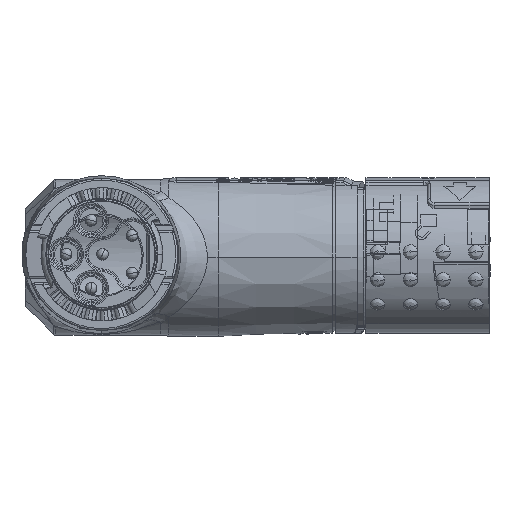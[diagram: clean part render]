
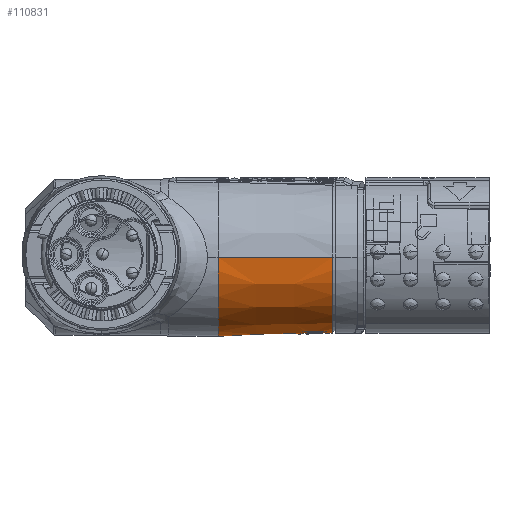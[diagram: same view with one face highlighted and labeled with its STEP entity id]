
A CAD part, top view. The second image highlights one B-rep face of the part: STEP entity #110831.
In plain terms, the highlighted conical face has half-angle 1.457 degrees and reference radius 10.86 mm.
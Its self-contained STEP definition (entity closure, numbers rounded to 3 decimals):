
#3 = CARTESIAN_POINT ( 'NONE',  ( 29.312, -10.33, -22.439 ) ) ;
#1002 = CARTESIAN_POINT ( 'NONE',  ( 16., 0., -13.579 ) ) ;
#1900 = VECTOR ( 'NONE', #90024, 1000. ) ;
#2316 = CIRCLE ( 'NONE', #64926, 10.86 ) ;
#2402 = CARTESIAN_POINT ( 'NONE',  ( 16., 0., -35.299 ) ) ;
#4346 = CARTESIAN_POINT ( 'NONE',  ( 30.501, -10.383, -25.948 ) ) ;
#5583 = DIRECTION ( 'NONE',  ( -1., 0., 0. ) ) ;
#5761 = CARTESIAN_POINT ( 'NONE',  ( 16., 0., -24.439 ) ) ;
#6026 = CARTESIAN_POINT ( 'NONE',  ( 28.917, -10.34, -26.439 ) ) ;
#6600 = CARTESIAN_POINT ( 'NONE',  ( 28.654, -10.357, -26.386 ) ) ;
#8023 = DIRECTION ( 'NONE',  ( 0., 0., -1. ) ) ;
#8116 = CARTESIAN_POINT ( 'NONE',  ( 31.182, -10.474, -24.308 ) ) ;
#9239 = CARTESIAN_POINT ( 'NONE',  ( 31.182, -10.474, -24.439 ) ) ;
#14086 = CARTESIAN_POINT ( 'NONE',  ( 30.928, -10.434, -25.449 ) ) ;
#15613 = CARTESIAN_POINT ( 'NONE',  ( 30.929, -10.435, -23.432 ) ) ;
#15849 = EDGE_LOOP ( 'NONE', ( #42935, #84402 ) ) ;
#17903 = CARTESIAN_POINT ( 'NONE',  ( 27.182, -10.576, -24.439 ) ) ;
#19131 = LINE ( 'NONE', #2402, #1900 ) ;
#19402 = EDGE_CURVE ( 'NONE', #65865, #40836, #83472, .T. ) ;
#21638 = CARTESIAN_POINT ( 'NONE',  ( 27.182, -10.576, -24.439 ) ) ;
#21685 = CARTESIAN_POINT ( 'NONE',  ( 16., 0., -35.299 ) ) ;
#22695 = VERTEX_POINT ( 'NONE', #1002 ) ;
#22757 = CARTESIAN_POINT ( 'NONE',  ( 31.182, -10.474, -24.439 ) ) ;
#22867 = CARTESIAN_POINT ( 'NONE',  ( 16., 0., -24.439 ) ) ;
#24279 = CARTESIAN_POINT ( 'NONE',  ( 30.78, -10.413, -23.209 ) ) ;
#26000 = CARTESIAN_POINT ( 'NONE',  ( 30.504, -10.383, -22.933 ) ) ;
#26568 = CARTESIAN_POINT ( 'NONE',  ( 27.284, -10.554, -23.794 ) ) ;
#27986 = CARTESIAN_POINT ( 'NONE',  ( 16., 0., -13.579 ) ) ;
#28069 = CARTESIAN_POINT ( 'NONE',  ( 31.182, -10.474, -24.439 ) ) ;
#30249 = CARTESIAN_POINT ( 'NONE',  ( 29.441, -10.329, -26.427 ) ) ;
#31385 = CARTESIAN_POINT ( 'NONE',  ( 27.675, -10.481, -25.761 ) ) ;
#32630 = FACE_BOUND ( 'NONE', #15849, .T. ) ;
#34068 = CARTESIAN_POINT ( 'NONE',  ( 29.442, -10.329, -22.452 ) ) ;
#34653 = CARTESIAN_POINT ( 'NONE',  ( 28.656, -10.357, -22.492 ) ) ;
#34976 = DIRECTION ( 'NONE',  ( -1., 0., 0.025 ) ) ;
#35202 = CARTESIAN_POINT ( 'NONE',  ( 27.246, -10.562, -23.921 ) ) ;
#37652 = DIRECTION ( 'NONE',  ( 0., 0., 1. ) ) ;
#38784 = DIRECTION ( 'NONE',  ( -1., 0., 0. ) ) ;
#40836 = VERTEX_POINT ( 'NONE', #28069 ) ;
#40997 = CARTESIAN_POINT ( 'NONE',  ( 31.73, 0., -13.979 ) ) ;
#41199 = CARTESIAN_POINT ( 'NONE',  ( 29.309, -10.33, -26.44 ) ) ;
#41920 = EDGE_LOOP ( 'NONE', ( #90030, #101555, #96947, #109745 ) ) ;
#42935 = ORIENTED_EDGE ( 'NONE', *, *, #19402, .T. ) ;
#43345 = AXIS2_PLACEMENT_3D ( 'NONE', #22867, #5583, #94315 ) ;
#47054 = CONICAL_SURFACE ( 'NONE', #43345, 10.86, 0.025 ) ;
#47399 = CARTESIAN_POINT ( 'NONE',  ( 31.73, 0., -24.439 ) ) ;
#48161 = CARTESIAN_POINT ( 'NONE',  ( 27.591, -10.495, -25.659 ) ) ;
#48650 = EDGE_CURVE ( 'NONE', #93103, #22695, #62596, .T. ) ;
#49264 = CARTESIAN_POINT ( 'NONE',  ( 27.447, -10.522, -25.442 ) ) ;
#49822 = CARTESIAN_POINT ( 'NONE',  ( 27.385, -10.534, -25.328 ) ) ;
#50383 = CARTESIAN_POINT ( 'NONE',  ( 30.066, -10.347, -26.238 ) ) ;
#50734 = EDGE_CURVE ( 'NONE', #110988, #97990, #19131, .T. ) ;
#50794 = CARTESIAN_POINT ( 'NONE',  ( 31.079, -10.457, -23.794 ) ) ;
#52727 = AXIS2_PLACEMENT_3D ( 'NONE', #47399, #38784, #37652 ) ;
#57336 = CARTESIAN_POINT ( 'NONE',  ( 27.182, -10.576, -24.703 ) ) ;
#58429 = CARTESIAN_POINT ( 'NONE',  ( 31.73, 0., -34.899 ) ) ;
#59976 = CARTESIAN_POINT ( 'NONE',  ( 27.86, -10.451, -22.933 ) ) ;
#61099 = CARTESIAN_POINT ( 'NONE',  ( 27.182, -10.576, -24.308 ) ) ;
#62596 = LINE ( 'NONE', #27986, #113227 ) ;
#64926 = AXIS2_PLACEMENT_3D ( 'NONE', #5761, #111781, #8023 ) ;
#65411 = CARTESIAN_POINT ( 'NONE',  ( 30.401, -10.373, -26.031 ) ) ;
#65865 = VERTEX_POINT ( 'NONE', #71325 ) ;
#66641 = B_SPLINE_CURVE_WITH_KNOTS ( 'NONE', 3,
 ( #22757, #110372, #85498, #67630, #93073, #14086, #75693, #4346, #65411, #75150, #50383, #101151, #84943, #30249, #41199, #6026, #6600, #100583, #93636, #67061, #102821, #31385, #48161, #49264, #49822, #84395, #57336, #21638 ),
 .UNSPECIFIED., .F., .F.,
 ( 4, 2, 2, 2, 2, 2, 2, 2, 2, 2, 2, 2, 2, 4 ),
 ( 0.005, 0.005, 0.005, 0.006, 0.006, 0.007, 0.007, 0.008, 0.008, 0.009, 0.009, 0.01, 0.01, 0.011 ),
 .UNSPECIFIED. ) ;
#67061 = CARTESIAN_POINT ( 'NONE',  ( 27.96, -10.436, -26.028 ) ) ;
#67630 = CARTESIAN_POINT ( 'NONE',  ( 31.117, -10.463, -24.96 ) ) ;
#69153 = CARTESIAN_POINT ( 'NONE',  ( 30.183, -10.355, -22.703 ) ) ;
#70249 = CARTESIAN_POINT ( 'NONE',  ( 31.118, -10.464, -23.921 ) ) ;
#71325 = CARTESIAN_POINT ( 'NONE',  ( 27.182, -10.576, -24.439 ) ) ;
#72867 = CIRCLE ( 'NONE', #52727, 10.46 ) ;
#75150 = CARTESIAN_POINT ( 'NONE',  ( 30.183, -10.355, -26.175 ) ) ;
#75256 = FACE_OUTER_BOUND ( 'NONE', #41920, .T. ) ;
#75693 = CARTESIAN_POINT ( 'NONE',  ( 30.78, -10.413, -25.67 ) ) ;
#77798 = CARTESIAN_POINT ( 'NONE',  ( 27.435, -10.524, -23.432 ) ) ;
#78925 = CARTESIAN_POINT ( 'NONE',  ( 29.699, -10.332, -22.503 ) ) ;
#79487 = CARTESIAN_POINT ( 'NONE',  ( 30.401, -10.373, -22.849 ) ) ;
#83472 = B_SPLINE_CURVE_WITH_KNOTS ( 'NONE', 3,
 ( #17903, #61099, #88188, #35202, #26568, #77798, #103205, #59976, #94598, #105477, #86483, #34653, #104923, #3, #34068, #78925, #87039, #96839, #69153, #79487, #26000, #24279, #15613, #50794, #70249, #95735, #8116, #9239 ),
 .UNSPECIFIED., .F., .F.,
 ( 4, 2, 2, 2, 2, 2, 2, 2, 2, 2, 2, 2, 2, 4 ),
 ( 0.011, 0.011, 0.012, 0.012, 0.013, 0.013, 0.014, 0.014, 0.015, 0.015, 0.015, 0.016, 0.017, 0.017 ),
 .UNSPECIFIED. ) ;
#84395 = CARTESIAN_POINT ( 'NONE',  ( 27.234, -10.564, -24.963 ) ) ;
#84402 = ORIENTED_EDGE ( 'NONE', *, *, #103208, .T. ) ;
#84943 = CARTESIAN_POINT ( 'NONE',  ( 29.699, -10.332, -26.376 ) ) ;
#85498 = CARTESIAN_POINT ( 'NONE',  ( 31.169, -10.472, -24.703 ) ) ;
#86483 = CARTESIAN_POINT ( 'NONE',  ( 28.293, -10.393, -22.643 ) ) ;
#87039 = CARTESIAN_POINT ( 'NONE',  ( 29.826, -10.336, -22.542 ) ) ;
#88188 = CARTESIAN_POINT ( 'NONE',  ( 27.195, -10.573, -24.178 ) ) ;
#90024 = DIRECTION ( 'NONE',  ( -1., 0., -0.025 ) ) ;
#90030 = ORIENTED_EDGE ( 'NONE', *, *, #50734, .F. ) ;
#93073 = CARTESIAN_POINT ( 'NONE',  ( 31.079, -10.457, -25.085 ) ) ;
#93103 = VERTEX_POINT ( 'NONE', #40997 ) ;
#93636 = CARTESIAN_POINT ( 'NONE',  ( 28.176, -10.407, -26.173 ) ) ;
#94315 = DIRECTION ( 'NONE',  ( 0., 0., 1. ) ) ;
#94598 = CARTESIAN_POINT ( 'NONE',  ( 27.962, -10.436, -22.849 ) ) ;
#95735 = CARTESIAN_POINT ( 'NONE',  ( 31.169, -10.472, -24.178 ) ) ;
#96839 = CARTESIAN_POINT ( 'NONE',  ( 30.068, -10.347, -22.642 ) ) ;
#96947 = ORIENTED_EDGE ( 'NONE', *, *, #48650, .T. ) ;
#97990 = VERTEX_POINT ( 'NONE', #21685 ) ;
#100583 = CARTESIAN_POINT ( 'NONE',  ( 28.293, -10.393, -26.236 ) ) ;
#101151 = CARTESIAN_POINT ( 'NONE',  ( 29.824, -10.336, -26.338 ) ) ;
#101252 = EDGE_CURVE ( 'NONE', #97990, #22695, #2316, .T. ) ;
#101555 = ORIENTED_EDGE ( 'NONE', *, *, #111875, .T. ) ;
#102821 = CARTESIAN_POINT ( 'NONE',  ( 27.859, -10.451, -25.946 ) ) ;
#103205 = CARTESIAN_POINT ( 'NONE',  ( 27.583, -10.495, -23.21 ) ) ;
#103208 = EDGE_CURVE ( 'NONE', #40836, #65865, #66641, .T. ) ;
#104923 = CARTESIAN_POINT ( 'NONE',  ( 28.916, -10.34, -22.44 ) ) ;
#105477 = CARTESIAN_POINT ( 'NONE',  ( 28.178, -10.407, -22.704 ) ) ;
#109745 = ORIENTED_EDGE ( 'NONE', *, *, #101252, .F. ) ;
#110372 = CARTESIAN_POINT ( 'NONE',  ( 31.182, -10.474, -24.57 ) ) ;
#110831 = ADVANCED_FACE ( 'NONE', ( #75256, #32630 ), #47054, .T. ) ;
#110988 = VERTEX_POINT ( 'NONE', #58429 ) ;
#111781 = DIRECTION ( 'NONE',  ( -1., 0., 0. ) ) ;
#111875 = EDGE_CURVE ( 'NONE', #110988, #93103, #72867, .T. ) ;
#113227 = VECTOR ( 'NONE', #34976, 1000. ) ;
